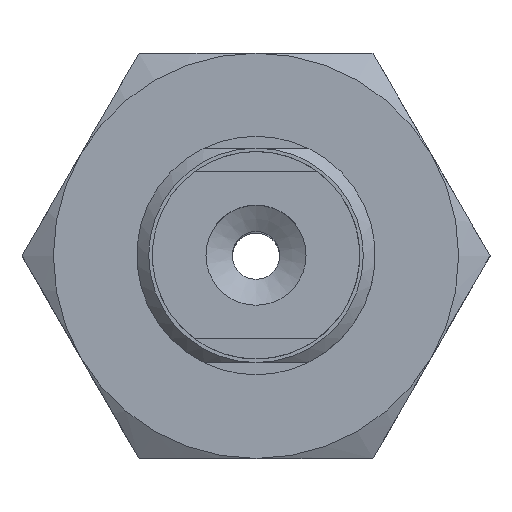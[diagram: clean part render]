
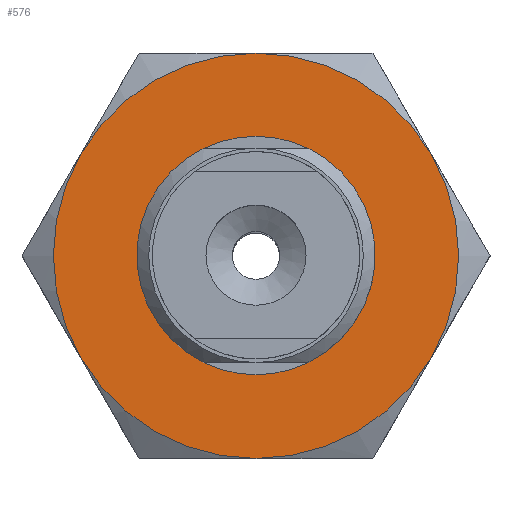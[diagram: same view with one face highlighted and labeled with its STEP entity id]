
A CAD part, top view. The second image highlights one B-rep face of the part: STEP entity #576.
In plain terms, the highlighted planar face has unit normal (0, 0, 1).
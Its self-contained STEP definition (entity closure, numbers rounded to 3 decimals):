
#576=ADVANCED_FACE('',(#804,#805),#806,.T.);
#804=FACE_BOUND('',#1111,.T.);
#805=FACE_OUTER_BOUND('',#1112,.T.);
#806=PLANE('',#1113);
#1111=EDGE_LOOP('',(#1744));
#1112=EDGE_LOOP('',(#1745,#1746,#1747,#1748,#1749,#1750));
#1113=AXIS2_PLACEMENT_3D('',#1751,#1752,#1753);
#1744=ORIENTED_EDGE('',*,*,#2229,.F.);
#1745=ORIENTED_EDGE('',*,*,#2234,.F.);
#1746=ORIENTED_EDGE('',*,*,#2236,.F.);
#1747=ORIENTED_EDGE('',*,*,#2215,.F.);
#1748=ORIENTED_EDGE('',*,*,#2210,.F.);
#1749=ORIENTED_EDGE('',*,*,#2238,.F.);
#1750=ORIENTED_EDGE('',*,*,#2235,.F.);
#1751=CARTESIAN_POINT('',(-9.815,-8.5,4.0));
#1752=DIRECTION('',(0.0,0.0,1.0));
#1753=DIRECTION('',(1.0,0.0,0.0));
#2210=EDGE_CURVE('',#2499,#2502,#2503,.T.);
#2215=EDGE_CURVE('',#2502,#2487,#2509,.T.);
#2229=EDGE_CURVE('',#2533,#2533,#2534,.T.);
#2234=EDGE_CURVE('',#2528,#2537,#2540,.T.);
#2235=EDGE_CURVE('',#2537,#2522,#2541,.T.);
#2236=EDGE_CURVE('',#2487,#2528,#2542,.T.);
#2238=EDGE_CURVE('',#2522,#2499,#2544,.T.);
#2487=VERTEX_POINT('',#3001);
#2499=VERTEX_POINT('',#3031);
#2502=VERTEX_POINT('',#3042);
#2503=CIRCLE('',#3043,8.5);
#2509=CIRCLE('',#3065,8.5);
#2522=VERTEX_POINT('',#3095);
#2528=VERTEX_POINT('',#3114);
#2533=VERTEX_POINT('',#3127);
#2534=CIRCLE('',#3128,4.5);
#2537=VERTEX_POINT('',#3135);
#2540=CIRCLE('',#3146,8.5);
#2541=CIRCLE('',#3147,8.5);
#2542=CIRCLE('',#3148,8.5);
#2544=CIRCLE('',#3150,8.5);
#3001=CARTESIAN_POINT('',(7.361,-4.25,4.0));
#3031=CARTESIAN_POINT('',(0.,8.5,4.0));
#3042=CARTESIAN_POINT('',(7.361,4.25,4.0));
#3043=AXIS2_PLACEMENT_3D('',#3511,#3512,#3513);
#3065=AXIS2_PLACEMENT_3D('',#3514,#3515,#3516);
#3095=CARTESIAN_POINT('',(-7.361,4.25,4.0));
#3114=CARTESIAN_POINT('',(0.,-8.5,4.0));
#3127=CARTESIAN_POINT('',(0.0,-4.5,4.0));
#3128=AXIS2_PLACEMENT_3D('',#3525,#3526,#3527);
#3135=CARTESIAN_POINT('',(-7.361,-4.25,4.0));
#3146=AXIS2_PLACEMENT_3D('',#3531,#3532,#3533);
#3147=AXIS2_PLACEMENT_3D('',#3534,#3535,#3536);
#3148=AXIS2_PLACEMENT_3D('',#3537,#3538,#3539);
#3150=AXIS2_PLACEMENT_3D('',#3543,#3544,#3545);
#3511=CARTESIAN_POINT('',(0.,0.,4.0));
#3512=DIRECTION('',(0.,0.,-1.0));
#3513=DIRECTION('',(0.866,0.5,0.));
#3514=CARTESIAN_POINT('',(0.,0.,4.0));
#3515=DIRECTION('',(0.,0.,-1.0));
#3516=DIRECTION('',(0.866,0.5,0.));
#3525=CARTESIAN_POINT('',(0.0,0.0,4.0));
#3526=DIRECTION('',(0.0,0.,1.0));
#3527=DIRECTION('',(0.0,-1.0,0.));
#3531=CARTESIAN_POINT('',(0.,0.,4.0));
#3532=DIRECTION('',(0.,0.,-1.0));
#3533=DIRECTION('',(0.866,0.5,0.));
#3534=CARTESIAN_POINT('',(0.,0.,4.0));
#3535=DIRECTION('',(0.,0.,-1.0));
#3536=DIRECTION('',(0.866,0.5,0.));
#3537=CARTESIAN_POINT('',(0.,0.,4.0));
#3538=DIRECTION('',(0.,0.,-1.0));
#3539=DIRECTION('',(0.866,0.5,0.));
#3543=CARTESIAN_POINT('',(0.,0.,4.0));
#3544=DIRECTION('',(0.,0.,-1.0));
#3545=DIRECTION('',(0.866,0.5,0.));
